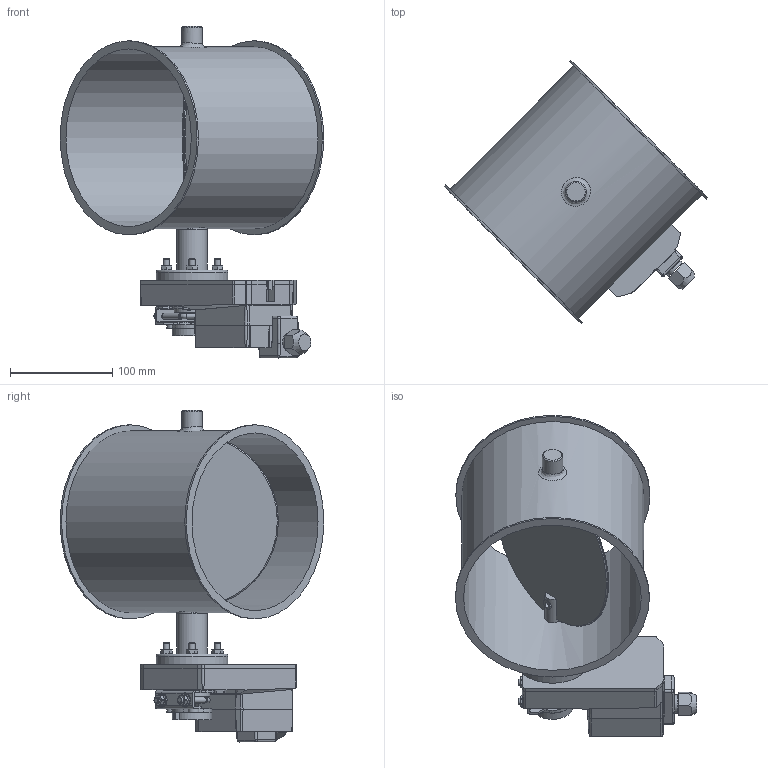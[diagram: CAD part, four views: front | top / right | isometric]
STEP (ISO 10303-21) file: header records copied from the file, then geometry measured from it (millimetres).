
FILE_DESCRIPTION((''),'2;1');
FILE_NAME('U:\Wolfgang\Marcel-3D\fertig\Kapitel 8\1721215.stp','2011-05-03T14:59:52',('TK1'),(''),'Autodesk Inventor 2010','Autodesk Inventor 2010','');
FILE_SCHEMA(('AUTOMOTIVE_DESIGN { 1 0 10303 214 1 1 1 1 }'));
Length unit declared in the file: millimetre
Products named in the file (11): 1721215; Bolzen D15; Scheibe170; DIN 6912 M6 x 16; 1721211-1; SM24A-Antrieb; BuchseD15 70-50; Distanzstück S; SM24A--A_standard_terminal_1cable; DIN 7991 M6x25; DIN 555 - ersetzt durch DIN EN 24034 M6
Assembly tree (18 placements, depth 3):
  1721215
    Bolzen D15  x2
    Scheibe170
    DIN 6912 M6 x 16  x2
    1721211-1
    SM24A-Antrieb
      BuchseD15 70-50
      Distanzstück S
      SM24A--A_standard_terminal_1cable
      DIN 7991 M6x25  x4
      DIN 555 - ersetzt durch DIN EN 24034 M6  x4
Bounding box: 258.06 x 258.12 x 325 mm (x, y, z)
Volume: 874607.2 mm3; surface area: 379189.1 mm2
Topology: 20 solids, 20 shells, 710 faces, 1770 edges, 1135 vertices
Faces by surface type: plane 379, cylinder 179, bspline 86, cone 38, torus 20, sphere 8
Full cylindrical faces by diameter (mm): 3 x2, 3.6 x2, 4.2 x4, 4.773 x4, 4.813 x4, 5.1 x1, 5.25 x4, 6 x14, 7 x4, 9.742 x1, 10 x4, 10.083 x1, 12 x4, 14 x4, 15 x2, 15.5 x1, 18.5 x1, 20 x1, 24 x1, 25.194 x1, 26 x2, 30 x2, 30.042 x1, 35 x2, 70 x1, 170 x1, 174 x1, 178 x1, 190 x2
Entity records: 19750 total; most frequent: CARTESIAN_POINT 5166, ORIENTED_EDGE 2828, DIRECTION 2724, EDGE_CURVE 1414, AXIS2_PLACEMENT_3D 972, VERTEX_POINT 963, VECTOR 780, LINE 780
